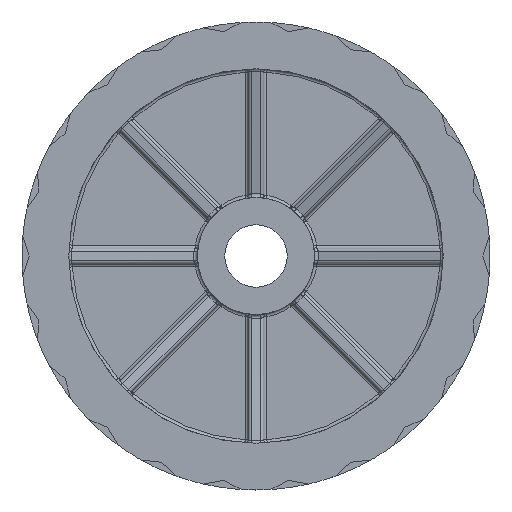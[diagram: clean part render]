
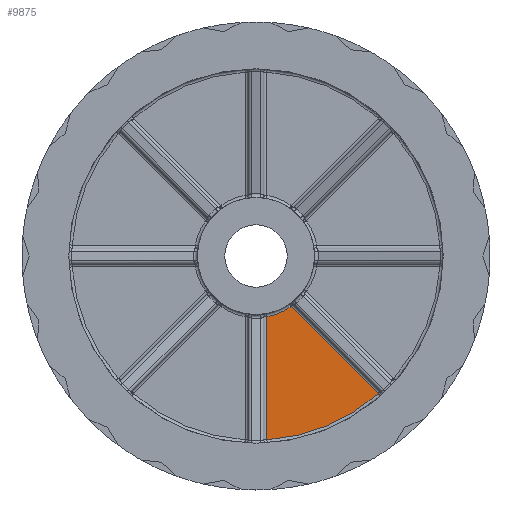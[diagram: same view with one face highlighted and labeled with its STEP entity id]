
A CAD part, left-side view. The second image highlights one B-rep face of the part: STEP entity #9875.
In plain terms, the highlighted planar face has unit normal (-1, 0, 0).
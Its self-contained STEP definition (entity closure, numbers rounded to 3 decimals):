
#938 = DIRECTION ( 'NONE',  ( -1., 0., 0. ) ) ;
#1074 = AXIS2_PLACEMENT_3D ( 'NONE', #6460, #12960, #14280 ) ;
#1697 = CARTESIAN_POINT ( 'NONE',  ( -6., -31.337, -35.297 ) ) ;
#2080 = DIRECTION ( 'NONE',  ( 0., 0., 1. ) ) ;
#2929 = CARTESIAN_POINT ( 'NONE',  ( -6., -2.8, -15.55 ) ) ;
#3906 = VECTOR ( 'NONE', #12115, 1000. ) ;
#3979 = DIRECTION ( 'NONE',  ( 0., 0., 1. ) ) ;
#4885 = EDGE_CURVE ( 'NONE', #7339, #8102, #12185, .T. ) ;
#5118 = DIRECTION ( 'NONE',  ( -1., 0., 0. ) ) ;
#5348 = DIRECTION ( 'NONE',  ( 0., 0., -1. ) ) ;
#5390 = AXIS2_PLACEMENT_3D ( 'NONE', #9573, #5118, #2080 ) ;
#5521 = EDGE_LOOP ( 'NONE', ( #17864, #13887, #9700, #10360 ) ) ;
#6460 = CARTESIAN_POINT ( 'NONE',  ( -6., 0., 0. ) ) ;
#6682 = CARTESIAN_POINT ( 'NONE',  ( -6., -9.016, -12.975 ) ) ;
#7265 = LINE ( 'NONE', #11846, #13716 ) ;
#7339 = VERTEX_POINT ( 'NONE', #11092 ) ;
#8102 = VERTEX_POINT ( 'NONE', #1697 ) ;
#8696 = EDGE_CURVE ( 'NONE', #8102, #9533, #12208, .T. ) ;
#9533 = VERTEX_POINT ( 'NONE', #6682 ) ;
#9573 = CARTESIAN_POINT ( 'NONE',  ( -6., 0., 0. ) ) ;
#9700 = ORIENTED_EDGE ( 'NONE', *, *, #4885, .T. ) ;
#9827 = CIRCLE ( 'NONE', #1074, 15.8 ) ;
#9875 = ADVANCED_FACE ( 'NONE', ( #9972 ), #14848, .T. ) ;
#9972 = FACE_OUTER_BOUND ( 'NONE', #5521, .T. ) ;
#10360 = ORIENTED_EDGE ( 'NONE', *, *, #8696, .T. ) ;
#11092 = CARTESIAN_POINT ( 'NONE',  ( -6., -2.8, -47.117 ) ) ;
#11846 = CARTESIAN_POINT ( 'NONE',  ( -6., -2.8, -47.958 ) ) ;
#11920 = CARTESIAN_POINT ( 'NONE',  ( -6., 9.48, 5.52 ) ) ;
#12115 = DIRECTION ( 'NONE',  ( 0., 0.707, 0.707 ) ) ;
#12185 = CIRCLE ( 'NONE', #5390, 47.2 ) ;
#12208 = LINE ( 'NONE', #11920, #3906 ) ;
#12960 = DIRECTION ( 'NONE',  ( 1., 0., 0. ) ) ;
#13716 = VECTOR ( 'NONE', #5348, 1000. ) ;
#13825 = EDGE_CURVE ( 'NONE', #9533, #16031, #9827, .T. ) ;
#13887 = ORIENTED_EDGE ( 'NONE', *, *, #13901, .T. ) ;
#13901 = EDGE_CURVE ( 'NONE', #16031, #7339, #7265, .T. ) ;
#14280 = DIRECTION ( 'NONE',  ( 0., 0., 1. ) ) ;
#14467 = AXIS2_PLACEMENT_3D ( 'NONE', #19102, #938, #3979 ) ;
#14848 = PLANE ( 'NONE',  #14467 ) ;
#16031 = VERTEX_POINT ( 'NONE', #2929 ) ;
#17864 = ORIENTED_EDGE ( 'NONE', *, *, #13825, .T. ) ;
#19102 = CARTESIAN_POINT ( 'NONE',  ( -6., 15., 0. ) ) ;
